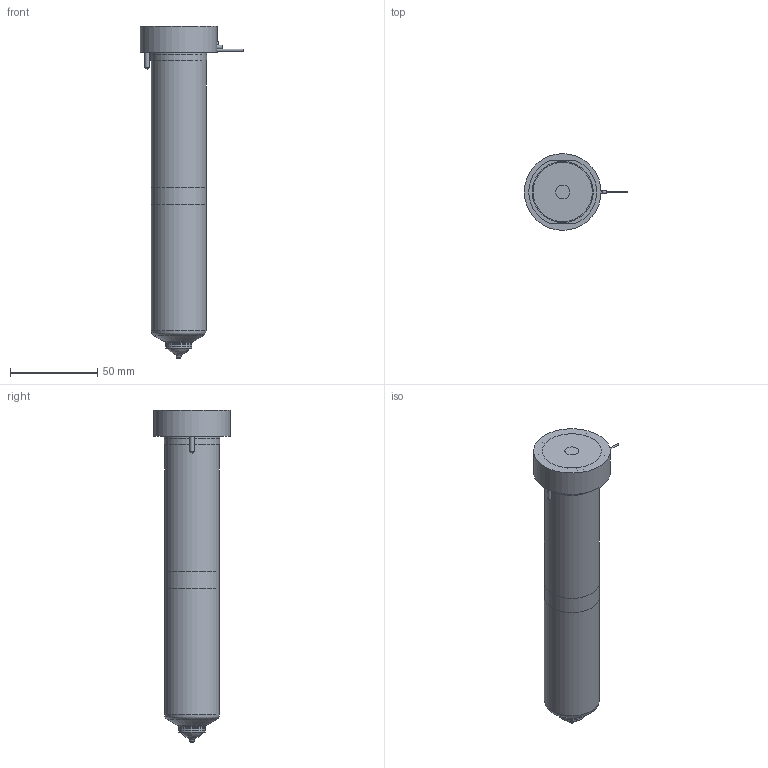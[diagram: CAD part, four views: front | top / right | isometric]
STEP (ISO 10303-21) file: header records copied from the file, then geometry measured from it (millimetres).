
FILE_DESCRIPTION(/* description */ (''),/* implementation_level */ '2;1');
FILE_NAME(/* name */ 'MXTV19175_200C_b',/* time_stamp */ '2007-01-18T09:54:13+13:00',/* author */ (''),/* organization */ (''),/* preprocessor_version */ 'ST-DEVELOPER v9',/* originating_system */ 'UGS - NX 4.0',/* authorisation */ '');
FILE_SCHEMA (('CONFIG_CONTROL_DESIGN'));
Length unit declared in the file: millimetre
Products named in the file (1): MXTV19175_200C_b
Bounding box: 59.25 x 44 x 190.46 mm (x, y, z)
Volume: 260433.7 mm3; surface area: 43184.1 mm2
Topology: 7 solids, 7 shells, 86 faces, 163 edges, 104 vertices
Faces by surface type: plane 36, cylinder 27, cone 13, torus 8, bspline 2
Full cylindrical faces by diameter (mm): 1 x3, 2 x2, 2.5 x2, 3 x1, 8 x1, 14.61 x1, 15.01 x2, 18.3 x1, 25.4 x1, 31.5 x2, 32 x2, 44 x1
Entity records: 2069 total; most frequent: CARTESIAN_POINT 427, DIRECTION 352, ORIENTED_EDGE 228, AXIS2_PLACEMENT_3D 163, EDGE_LOOP 138, EDGE_CURVE 114, VERTEX_POINT 95, ADVANCED_FACE 86
